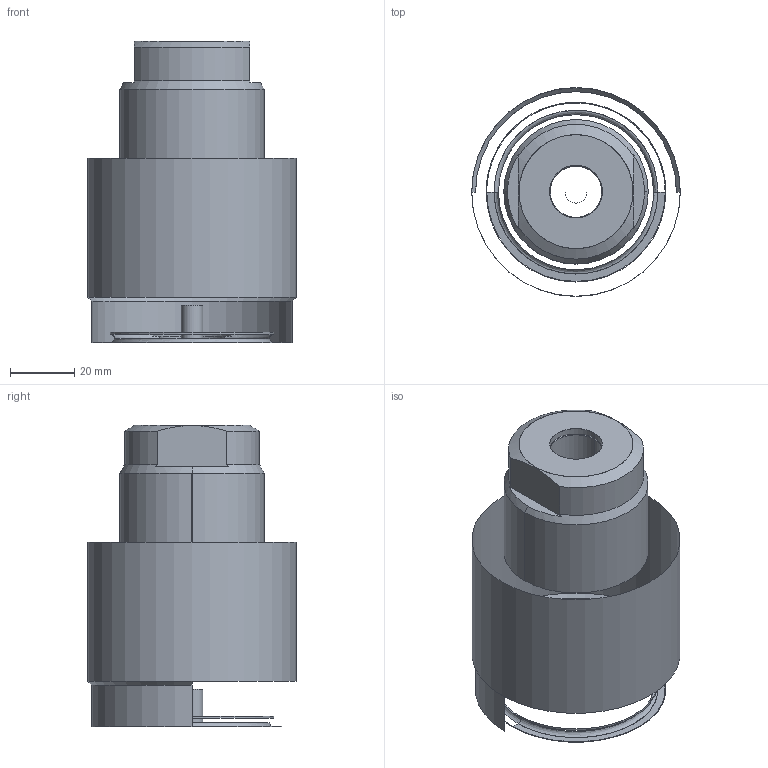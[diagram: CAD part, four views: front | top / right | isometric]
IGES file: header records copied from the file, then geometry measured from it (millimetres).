
Start section: SolidWorks IGES file using analytic representation for surfaces
Global section: file name: D:\abhilash\nijil\cylinder\Clasys1\dp converted\08\pt\0802\0102-0802.IGS; native system: SolidWorks 2010; preprocessor: SolidWorks 2010; author: nidheesh; date: 130730.113136; units: millimetre
Bounding box: 65 x 65 x 94 mm (x, y, z)
Surface area: 18837.1 mm2 (no closed solid volume)
Topology: 0 solids, 0 shells, 32 faces, 276 edges, 280 vertices
Faces by surface type: revolution 23, bspline 9
